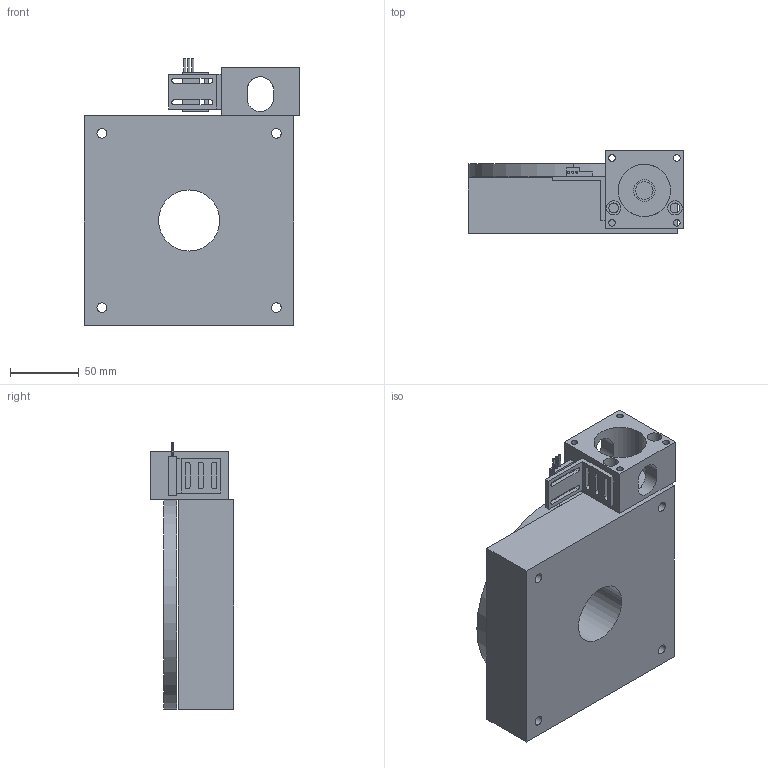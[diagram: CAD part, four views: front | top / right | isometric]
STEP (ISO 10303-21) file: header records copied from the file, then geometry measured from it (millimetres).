
FILE_DESCRIPTION((''),'2;1');
FILE_NAME('E6-ROTARY_ASM','2005-02-18T',('BF20108'),(''),'PRO/ENGINEER BY PARAMETRIC TECHNOLOGY CORPORATION, 2004400','PRO/ENGINEER BY PARAMETRIC TECHNOLOGY CORPORATION, 2004400','');
FILE_SCHEMA(('CONFIG_CONTROL_DESIGN'));
Products named in the file (7): E6RO-BASE; E6RO-TOP-38; E-0176-01; 000-4457-SW-BRKT; 003-1145-SWITCH; ROTARY-TBL-HOME-SW_ASM; E6-ROTARY_ASM
Assembly tree (6 placements, depth 3):
  E6-ROTARY_ASM
    E6RO-BASE
    E6RO-TOP-38
    E-0176-01
    ROTARY-TBL-HOME-SW_ASM
      000-4457-SW-BRKT
      003-1145-SWITCH
Bounding box: 156.64 x 60.45 x 193.89 mm (x, y, z)
Volume: 1086101.6 mm3; surface area: 146761.5 mm2
Topology: 5 solids, 5 shells, 143 faces, 370 edges, 246 vertices
Faces by surface type: cylinder 84, plane 59
Entity records: 4819 total; most frequent: CARTESIAN_POINT 850, DIRECTION 846, ORIENTED_EDGE 740, EDGE_CURVE 370, AXIS2_PLACEMENT_3D 324, VERTEX_POINT 246, EDGE_LOOP 212, VECTOR 198
